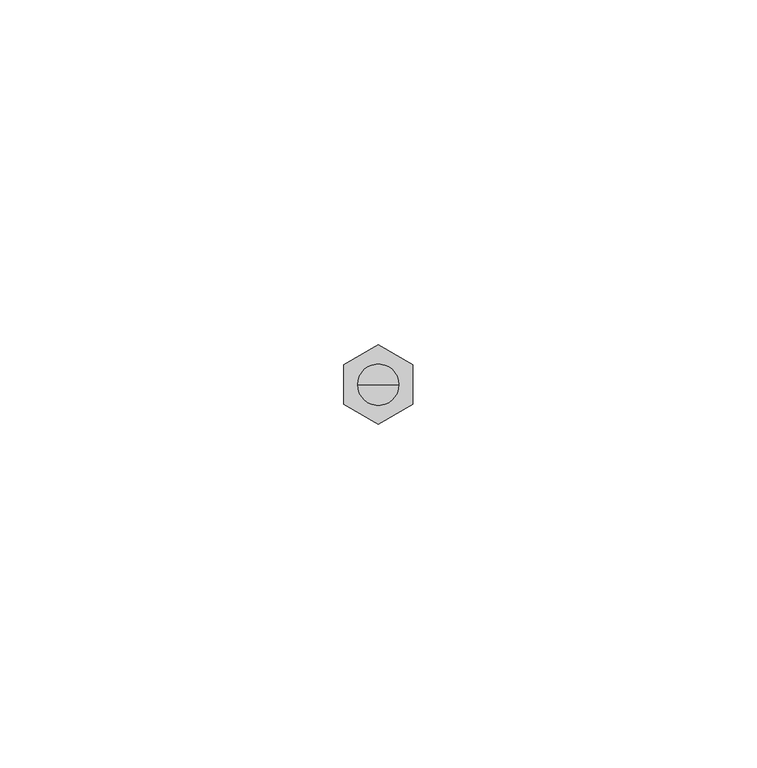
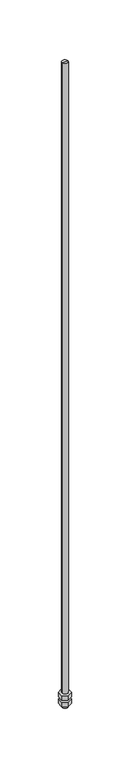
"""IFC4 building model written with IfcOpenShell, lengths in millimetres: proxy geometry, durlum_threaded_rod_M6 : durlum_threaded_rod_M6."""

from ifc_helpers import new_model, si_unit, frame, origin, origin_with_axes, place, context, project, spatial, polyline, circle_curve, outline, extrude, source, transform, mapped, element, save
from ifc_brep_helpers import plane_surface, cylinder_surface, advanced_brep


def generic_models_204b18f4(model_context):
    return source(origin(), model_context, "Body", "SolidModel", [
        extrude(outline(polyline([(5.0, 3.0421914), (5.0, -2.7313113), (0.0, -5.6180626), (-5.0, -2.7313113), (-5.0, 3.0421914), (0.0, 5.9289428), (5.0, 3.0421914)])), frame((0.0, 0.0, -7.0), z_axis=(0.0, 0.0, 1.0), x_axis=(1.0, 0.0, 0.0)), (0.0, 0.0, 1.0), 5.0),
        extrude(outline(polyline([(5.0, 3.0421914), (5.0, -2.7313113), (0.0, -5.6180626), (-5.0, -2.7313113), (-5.0, 3.0421914), (0.0, 5.9289428), (5.0, 3.0421914)])), origin_with_axes(), (0.0, 0.0, 1.0), 5.0),
        advanced_brep(
        [(-3.0, 0.0, 681.5484823), (3.0, 0.0, 681.5484823), (3.0, 0.0, -10.0), (-3.0, 0.0, -10.0), (0.0, 0.0, 681.5484823), (0.0, 0.0, -10.0)],
        [
            (0, 1, circle_curve(frame((0.0, 0.0, 681.5484823), z_axis=(0.0, 0.0, -1.0), x_axis=(1.0, 0.0, 0.0)), 3.0)),
            (1, 2),
            (2, 3, circle_curve(frame((0.0, 0.0, -10.0), z_axis=(0.0, 0.0, 1.0), x_axis=(1.0, 0.0, 0.0)), 3.0)),
            (3, 0),
            (1, 0, circle_curve(frame((0.0, 0.0, 681.5484823), z_axis=(0.0, 0.0, -1.0), x_axis=(1.0, 0.0, 0.0)), 3.0)),
            (3, 2, circle_curve(frame((0.0, 0.0, -10.0), z_axis=(0.0, 0.0, 1.0), x_axis=(1.0, 0.0, 0.0)), 3.0)),
            (4, 1),
            (0, 4),
            (2, 5),
            (5, 3),
        ],
        [
            cylinder_surface(frame((0.0, 0.0, -675.0), z_axis=(0.0, 0.0, 1.0), x_axis=(1.0, 0.0, 0.0)), 3.0),
            plane_surface(frame((0.0, 0.0, 681.5484823), z_axis=(0.0, 0.0, 1.0), x_axis=(1.0, 0.0, 0.0))),
            plane_surface(frame((0.0, 0.0, -10.0), z_axis=(0.0, 0.0, -1.0), x_axis=(1.0, 0.0, 0.0))),
        ],
        [
            (0, [[1, 2, 3, 4]]),
            (0, [[5, -4, 6, -2]]),
            (1, [[7, -1, 8]]),
            (1, [[-8, -5, -7]]),
            (2, [[-3, 9, 10]]),
            (2, [[-6, -10, -9]]),
        ],
    ),
    ])


if __name__ == "__main__":
    model = new_model("IFC4")
    model_context = context("Model", 3, world=origin())
    ifc_project = project(units=[si_unit("LENGTHUNIT", "METRE", prefix="MILLI")], contexts=[model_context])
    site = spatial("IfcSite", under=ifc_project)
    building = spatial("IfcBuilding", under=site)
    placement = place(None, origin())
    generic_models_shape = generic_models_204b18f4(model_context)
    element("IfcBuildingElementProxy", 1, Name="durlum_threaded_rod_M6 : durlum_threaded_rod_M6", ObjectType="durlum_threaded_rod_M6 : durlum_threaded_rod_M6", at=placement, inside=building, context=model_context, shape_type="MappedRepresentation", body=[
        mapped(generic_models_shape, transform((0.0, 0.0, 0.0), x_axis=(1.0, 0.0, 0.0), y_axis=(0.0, 1.0, 0.0), z_axis=(0.0, 0.0, 1.0))),
    ])
    save(model, "model.ifc")
